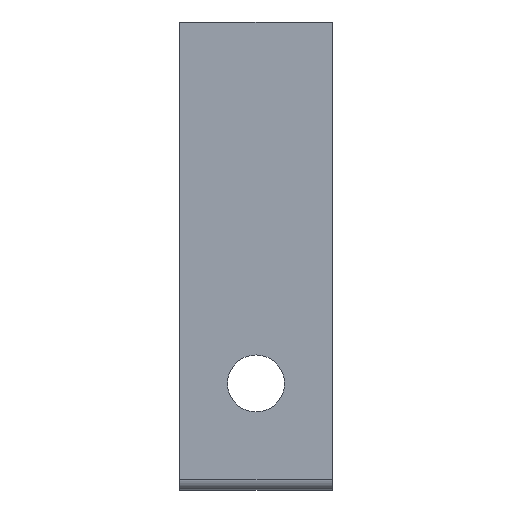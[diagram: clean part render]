
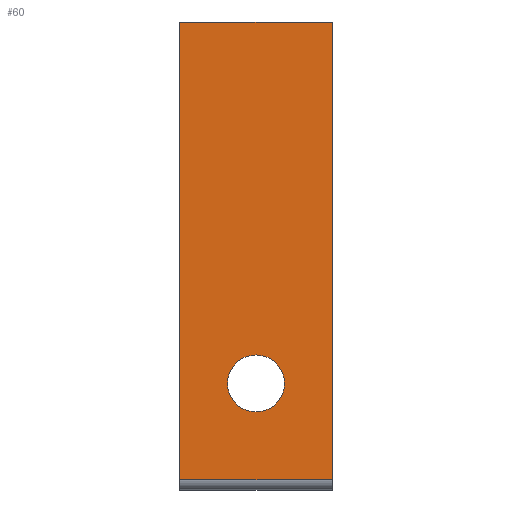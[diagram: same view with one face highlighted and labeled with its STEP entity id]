
A CAD part, front view. The second image highlights one B-rep face of the part: STEP entity #60.
In plain terms, the highlighted planar face has unit normal (0, -1, 0).
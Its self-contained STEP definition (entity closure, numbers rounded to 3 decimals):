
#5 = VECTOR ( 'NONE', #1215, 1000. ) ;
#24 = DIRECTION ( 'NONE',  ( 0., -1., 0. ) ) ;
#32 = VERTEX_POINT ( 'NONE', #315 ) ;
#35 = EDGE_CURVE ( 'NONE', #827, #625, #1236, .T. ) ;
#47 = DIRECTION ( 'NONE',  ( 0., 0., 1. ) ) ;
#60 = ADVANCED_FACE ( 'NONE', ( #117, #110 ), #1233, .T. ) ;
#64 = EDGE_LOOP ( 'NONE', ( #1304, #614 ) ) ;
#110 = FACE_OUTER_BOUND ( 'NONE', #385, .T. ) ;
#117 = FACE_BOUND ( 'NONE', #64, .T. ) ;
#159 = EDGE_CURVE ( 'NONE', #575, #625, #203, .T. ) ;
#169 = DIRECTION ( 'NONE',  ( 1., 0., 0. ) ) ;
#203 = LINE ( 'NONE', #863, #417 ) ;
#315 = CARTESIAN_POINT ( 'NONE',  ( 20., -2., -102.5 ) ) ;
#323 = CARTESIAN_POINT ( 'NONE',  ( 20., -2., -95. ) ) ;
#334 = DIRECTION ( 'NONE',  ( 0., 1., 0. ) ) ;
#385 = EDGE_LOOP ( 'NONE', ( #679, #1209, #825, #765 ) ) ;
#396 = CARTESIAN_POINT ( 'NONE',  ( 0., -2., -120.264 ) ) ;
#417 = VECTOR ( 'NONE', #970, 1000. ) ;
#575 = VERTEX_POINT ( 'NONE', #1176 ) ;
#589 = CARTESIAN_POINT ( 'NONE',  ( 0., -2., 0. ) ) ;
#609 = LINE ( 'NONE', #589, #1089 ) ;
#614 = ORIENTED_EDGE ( 'NONE', *, *, #1084, .T. ) ;
#625 = VERTEX_POINT ( 'NONE', #981 ) ;
#631 = CARTESIAN_POINT ( 'NONE',  ( 20., -2., -95. ) ) ;
#644 = CIRCLE ( 'NONE', #923, 7.5 ) ;
#679 = ORIENTED_EDGE ( 'NONE', *, *, #727, .F. ) ;
#715 = AXIS2_PLACEMENT_3D ( 'NONE', #631, #740, #47 ) ;
#725 = CARTESIAN_POINT ( 'NONE',  ( 0., -2., 0. ) ) ;
#727 = EDGE_CURVE ( 'NONE', #827, #942, #609, .T. ) ;
#740 = DIRECTION ( 'NONE',  ( 0., 1., 0. ) ) ;
#765 = ORIENTED_EDGE ( 'NONE', *, *, #1277, .F. ) ;
#771 = CIRCLE ( 'NONE', #715, 7.5 ) ;
#780 = CARTESIAN_POINT ( 'NONE',  ( 0., -2., -120.264 ) ) ;
#788 = VERTEX_POINT ( 'NONE', #887 ) ;
#825 = ORIENTED_EDGE ( 'NONE', *, *, #159, .F. ) ;
#827 = VERTEX_POINT ( 'NONE', #396 ) ;
#828 = LINE ( 'NONE', #1120, #5 ) ;
#863 = CARTESIAN_POINT ( 'NONE',  ( 40., -2., 0. ) ) ;
#887 = CARTESIAN_POINT ( 'NONE',  ( 20., -2., -87.5 ) ) ;
#923 = AXIS2_PLACEMENT_3D ( 'NONE', #323, #334, #1255 ) ;
#931 = DIRECTION ( 'NONE',  ( 0., 0., -1. ) ) ;
#942 = VERTEX_POINT ( 'NONE', #1166 ) ;
#970 = DIRECTION ( 'NONE',  ( 0., 0., -1. ) ) ;
#981 = CARTESIAN_POINT ( 'NONE',  ( 40., -2., -120.264 ) ) ;
#1009 = DIRECTION ( 'NONE',  ( 0., 0., 1. ) ) ;
#1029 = AXIS2_PLACEMENT_3D ( 'NONE', #725, #24, #931 ) ;
#1050 = EDGE_CURVE ( 'NONE', #788, #32, #771, .T. ) ;
#1084 = EDGE_CURVE ( 'NONE', #32, #788, #644, .T. ) ;
#1089 = VECTOR ( 'NONE', #1009, 1000. ) ;
#1120 = CARTESIAN_POINT ( 'NONE',  ( 0., -2., 0. ) ) ;
#1166 = CARTESIAN_POINT ( 'NONE',  ( 0., -2., 0. ) ) ;
#1176 = CARTESIAN_POINT ( 'NONE',  ( 40., -2., 0. ) ) ;
#1209 = ORIENTED_EDGE ( 'NONE', *, *, #35, .T. ) ;
#1215 = DIRECTION ( 'NONE',  ( 1., 0., 0. ) ) ;
#1233 = PLANE ( 'NONE',  #1029 ) ;
#1236 = LINE ( 'NONE', #780, #1262 ) ;
#1255 = DIRECTION ( 'NONE',  ( 0., 0., 1. ) ) ;
#1262 = VECTOR ( 'NONE', #169, 1000. ) ;
#1277 = EDGE_CURVE ( 'NONE', #942, #575, #828, .T. ) ;
#1304 = ORIENTED_EDGE ( 'NONE', *, *, #1050, .T. ) ;
